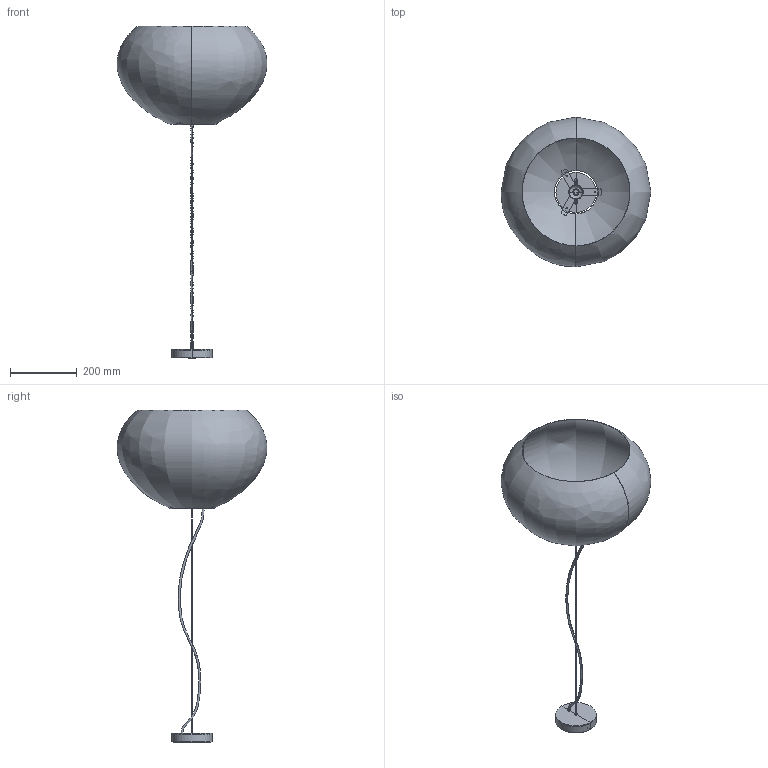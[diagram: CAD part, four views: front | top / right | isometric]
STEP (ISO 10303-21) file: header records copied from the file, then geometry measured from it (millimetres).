
FILE_DESCRIPTION(/* description */ (''),/* implementation_level */ '2;1');
FILE_NAME(/* name */ '20404.step',/* time_stamp */ '2024-03-28T11:13:44+01:00',/* author */ ('RenataManzini'),/* organization */ (''),/* preprocessor_version */ 'ST-DEVELOPER v20',/* originating_system */ 'AutoCAD Mechanical',/* authorisation */ '');
FILE_SCHEMA (('AUTOMOTIVE_DESIGN { 1 0 10303 214 3 1 1 }'));
Length unit declared in the file: millimetre
Products named in the file (4): Product; Pieza_20403_SL02 - Lamp Holder-696825-_3D_; Pieza_20403_SC - Lamp Holder-701445-_3D_; Pieza_20403_SL01 - Lamp Holder-704531-_3D_
Assembly tree (3 placements, depth 2):
  Product
    Pieza_20403_SL02 - Lamp Holder-696825-_3D_
    Pieza_20403_SC - Lamp Holder-701445-_3D_
    Pieza_20403_SL01 - Lamp Holder-704531-_3D_
Bounding box: 447.67 x 447.03 x 992.05 mm (x, y, z)
Volume: 508431.6 mm3; surface area: 956949.6 mm2
Topology: 7 solids, 7 shells, 128 faces, 293 edges, 178 vertices
Faces by surface type: plane 61, cylinder 47, bspline 10, cone 10
Entity records: 21051 total; most frequent: CARTESIAN_POINT 18069, DIRECTION 613, ORIENTED_EDGE 586, EDGE_CURVE 293, AXIS2_PLACEMENT_3D 225, VERTEX_POINT 178, LINE 163, VECTOR 163
